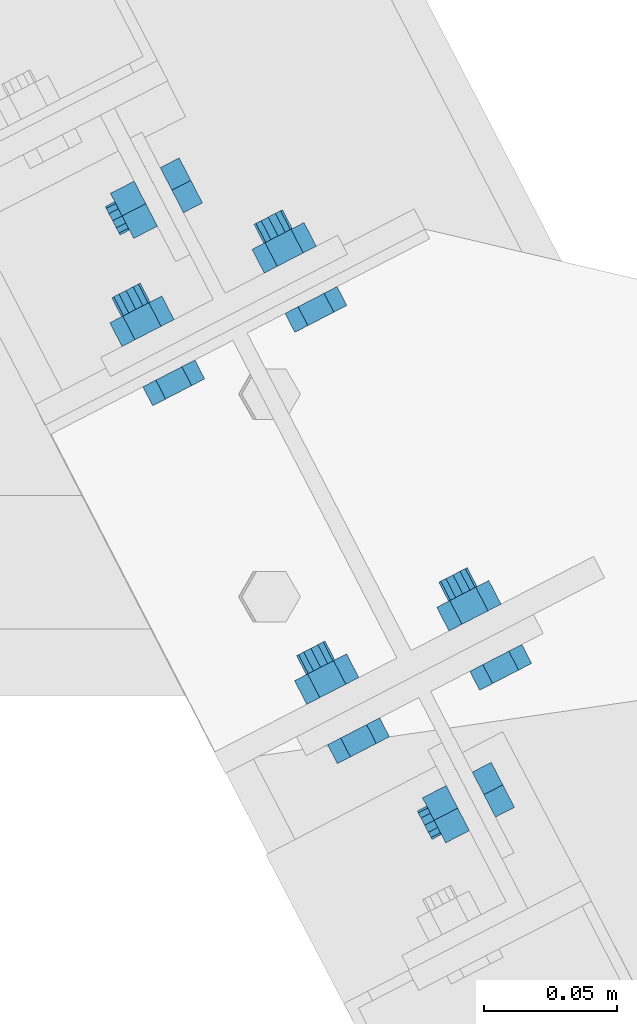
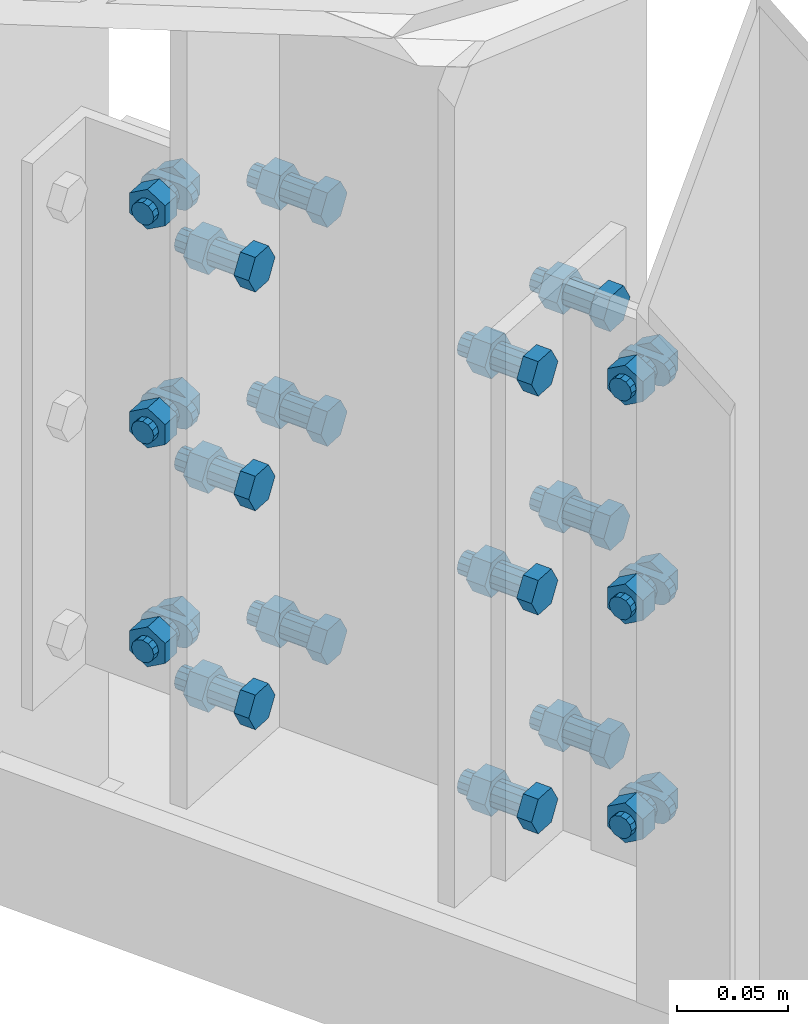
# One storey, part 16 of 3134: 4 mechanical fasteners, 3 elements without a shape of their own.
"""IFC2X3 building model written with IfcOpenShell, lengths in millimetres."""

from ifc_helpers import new_model, si_unit, frame, origin_with_axes, place, context, subcontext, project, spatial, faceted_brep, source, transform, mapped, material, type_object, element, aggregate, save


model = new_model("IFC2X3")

# Units and contexts
model_context = context("Model", 3, precision=1e-05, world=origin_with_axes())
body_context = subcontext(model_context, "Body", "Model", "MODEL_VIEW")
ifc_project = project(units=[si_unit("LENGTHUNIT", "METRE", prefix="MILLI"), si_unit("AREAUNIT", "SQUARE_METRE"), si_unit("VOLUMEUNIT", "CUBIC_METRE"), si_unit("MASSUNIT", "GRAM", prefix="KILO"), si_unit("TIMEUNIT", "SECOND"), si_unit("PLANEANGLEUNIT", "RADIAN"), si_unit("SOLIDANGLEUNIT", "STERADIAN"), si_unit("THERMODYNAMICTEMPERATUREUNIT", "DEGREE_CELSIUS"), si_unit("LUMINOUSINTENSITYUNIT", "LUMEN")], contexts=[model_context])

# Site, building, storey
site_placement = place(None, origin_with_axes())
site = spatial("IfcSite", under=ifc_project, at=site_placement, CompositionType="ELEMENT")
building_placement = place(site_placement, origin_with_axes())
building = spatial("IfcBuilding", under=site, at=building_placement, Name="Undefined", CompositionType="ELEMENT")
storey_placement = place(building_placement, origin_with_axes())
storey = spatial("IfcBuildingStorey", under=building, at=storey_placement, Name="Undefined", CompositionType="ELEMENT", Elevation=0.0)

# Assembly, mechanical fastener
assembly_1_placement = place(storey_placement, origin_with_axes())
assembly_1 = element("IfcElementAssembly", 1, at=assembly_1_placement, inside=storey, AssemblyPlace="NOTDEFINED", PredefinedType="RIGID_FRAME")
ifc_material = material(Name="8.8")
mechanical_fastener_type = type_object("IfcMechanicalFastenerType", Name="Bolt assembly")
shared_shape_1 = source(origin_with_axes(), body_context, "Body", "Brep", [
    faceted_brep([(10.9696551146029, -10.499999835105, 0.0), (5.48482755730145, -10.499999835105, 9.5), (-5.48482755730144, -10.499999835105, 9.5), (-10.9696551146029, -10.499999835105, 1.34339530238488e-15), (-5.48482755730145, -10.499999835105, -9.5), (5.48482755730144, -10.499999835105, -9.50000000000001), (5.48482755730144, -2.49999983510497, -9.50000000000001), (-5.48482755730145, -2.49999983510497, -9.5), (-10.9696551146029, -2.49999983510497, 1.34339530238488e-15), (-5.48482755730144, -2.49999983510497, 9.5), (5.48482755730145, -2.49999983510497, 9.5), (10.9696551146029, -2.49999983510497, 0.0), (6.0, -2.49999983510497, 0.0), (5.19615242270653, -2.49999983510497, 3.00000000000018), (2.99999999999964, -2.49999983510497, 5.19615242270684), (-6.21801588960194e-13, -2.49999983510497, 6.0), (-3.00000000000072, -2.49999983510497, 5.19615242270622), (-5.19615242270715, -2.49999983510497, 2.9999999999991), (-6.0, -2.49999983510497, -1.24360317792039e-12), (-5.19615242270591, -2.49999983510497, -3.00000000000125), (-2.99999999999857, -2.49999983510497, -5.19615242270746), (1.85874342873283e-12, -2.49999983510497, -6.0), (3.00000000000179, -2.49999983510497, -5.1961524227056), (5.19615242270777, -2.49999983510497, -2.99999999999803), (5.19615242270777, 22.5, -2.99999999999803), (3.00000000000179, 22.5, -5.1961524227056), (1.85874342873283e-12, 22.5, -6.0), (-2.99999999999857, 22.5, -5.19615242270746), (-5.19615242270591, 22.5, -3.00000000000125), (-6.0, 22.5, -1.24360317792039e-12), (-5.19615242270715, 22.5, 2.9999999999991), (-3.00000000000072, 22.5, 5.19615242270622), (-6.21801588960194e-13, 22.5, 6.0), (2.99999999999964, 22.5, 5.19615242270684), (5.19615242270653, 22.5, 3.00000000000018), (6.0, 22.5, 0.0), (10.9696551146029, 8.50160430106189, 0.0), (5.48482755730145, 8.50160430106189, 9.5), (-5.48482755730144, 8.50160430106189, 9.5), (-10.9696551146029, 8.50160430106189, 1.34339530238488e-15), (-5.48482755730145, 8.50160430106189, -9.5), (5.48482755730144, 8.50160430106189, -9.50000000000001), (5.48482755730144, 18.5016043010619, -9.50000000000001), (-5.48482755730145, 18.5016043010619, -9.5), (-10.9696551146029, 18.5016043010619, 1.34339530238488e-15), (-5.48482755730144, 18.5016043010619, 9.5), (5.48482755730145, 18.5016043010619, 9.5), (10.9696551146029, 18.5016043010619, 0.0)], [[[0, 1, 2, 3, 4, 5]], [[6, 7, 8, 9, 10, 11]], [[0, 11, 10, 1]], [[1, 10, 9, 2]], [[2, 9, 8, 3]], [[3, 8, 7, 4]], [[4, 7, 6, 5]], [[5, 6, 11, 0]], [[12, 13, 14, 15, 16, 17, 18, 19, 20, 21, 22, 23]], [[24, 25, 26, 27, 28, 29, 30, 31, 32, 33, 34, 35]], [[12, 35, 34, 13]], [[13, 34, 33, 14]], [[14, 33, 32, 15]], [[15, 32, 31, 16]], [[16, 31, 30, 17]], [[17, 30, 29, 18]], [[18, 29, 28, 19]], [[19, 28, 27, 20]], [[20, 27, 26, 21]], [[21, 26, 25, 22]], [[22, 25, 24, 23]], [[23, 24, 35, 12]], [[36, 37, 38, 39, 40, 41]], [[42, 43, 44, 45, 46, 47]], [[36, 47, 46, 37]], [[37, 46, 45, 38]], [[38, 45, 44, 39]], [[39, 44, 43, 40]], [[40, 43, 42, 41]], [[41, 42, 47, 36]]]),
    faceted_brep([(7.0, -2.39999983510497, 7.0), (6.46715672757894, -2.39999983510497, 9.6787840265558), (4.94974746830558, -2.39999983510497, 11.9497474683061), (-7.25435187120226e-13, -2.39999983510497, 14.0), (-3.50000000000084, -2.39999983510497, 13.0621778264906), (-6.06217782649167, -2.39999983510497, 10.499999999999), (-7.0, -2.39999983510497, 6.99999999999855), (-7.0, -2.39999983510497, -7.00000000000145), (-6.06217782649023, -2.39999983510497, -10.5000000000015), (-3.49999999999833, -2.39999983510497, -13.062177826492), (2.1685340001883e-12, -2.39999983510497, -14.0), (3.50000000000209, -2.39999983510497, -13.0621778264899), (6.0621778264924, -2.39999983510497, -10.4999999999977), (7.0, -2.39999983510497, -6.9999999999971), (7.0, 2.60000016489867, -6.9999999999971), (6.0621778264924, 2.60000016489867, -10.4999999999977), (3.50000000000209, 2.60000016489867, -13.0621778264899), (2.1685340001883e-12, 2.60000016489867, -14.0), (-3.49999999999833, 2.60000016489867, -13.062177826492), (-6.06217782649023, 2.60000016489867, -10.5000000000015), (-7.0, 2.60000016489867, -7.00000000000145), (-7.0, 2.60000016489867, 6.99999999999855), (-6.06217782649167, 2.60000016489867, 10.499999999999), (-3.50000000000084, 2.60000016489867, 13.0621778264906), (-7.25435187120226e-13, 2.60000016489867, 14.0), (2.67878402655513, 2.60000016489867, 13.4671567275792), (4.94974746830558, 2.60000016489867, 11.9497474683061), (6.46715672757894, 2.60000016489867, 9.6787840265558), (7.0, 2.60000016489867, 7.0), (2.67878402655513, -2.39999983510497, 13.4671567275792), (7.0, 2.40160430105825, 0.0), (6.06217782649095, 2.40160430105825, 3.50000000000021), (3.49999999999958, 2.40160430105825, 6.06217782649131), (-7.25435187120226e-13, 2.40160430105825, 7.0), (-3.50000000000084, 2.40160430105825, 6.06217782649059), (-6.06217782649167, 2.40160430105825, 3.49999999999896), (-7.0, 2.40160430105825, -1.45087037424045e-12), (-6.06217782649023, 2.40160430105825, -3.50000000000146), (-3.49999999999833, 2.40160430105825, -6.06217782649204), (2.1685340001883e-12, 2.40160430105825, -7.0), (3.50000000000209, 2.40160430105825, -6.06217782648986), (6.0621778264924, 2.40160430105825, -3.4999999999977), (6.0621778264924, 8.50160430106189, -3.4999999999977), (3.50000000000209, 8.50160430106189, -6.06217782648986), (2.1685340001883e-12, 8.50160430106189, -7.0), (-3.49999999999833, 8.50160430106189, -6.06217782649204), (-6.06217782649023, 8.50160430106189, -3.50000000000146), (-7.0, 8.50160430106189, -1.45087037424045e-12), (-6.06217782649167, 8.50160430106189, 3.49999999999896), (-3.50000000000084, 8.50160430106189, 6.06217782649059), (-7.25435187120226e-13, 8.50160430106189, 7.0), (3.49999999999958, 8.50160430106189, 6.06217782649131), (6.06217782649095, 8.50160430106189, 3.50000000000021), (7.0, 8.50160430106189, 0.0)], [[[0, 1, 2, 3, 4, 5, 6, 7, 8, 9, 10, 11, 12, 13]], [[14, 15, 16, 17, 18, 19, 20, 21, 22, 23, 24, 25, 26, 27, 28]], [[0, 28, 27, 1]], [[1, 27, 26, 2]], [[2, 26, 25, 29]], [[29, 25, 24, 3]], [[3, 24, 23, 4]], [[4, 23, 22, 5]], [[5, 22, 21, 6]], [[6, 21, 20, 7]], [[7, 20, 19, 8]], [[8, 19, 18, 9]], [[9, 18, 17, 10]], [[10, 17, 16, 11]], [[11, 16, 15, 12]], [[12, 15, 14, 13]], [[13, 14, 28, 0]], [[30, 31, 32, 33, 34, 35, 36, 37, 38, 39, 40, 41]], [[42, 43, 44, 45, 46, 47, 48, 49, 50, 51, 52, 53]], [[30, 53, 52, 31]], [[31, 52, 51, 32]], [[32, 51, 50, 33]], [[33, 50, 49, 34]], [[34, 49, 48, 35]], [[35, 48, 47, 36]], [[36, 47, 46, 37]], [[37, 46, 45, 38]], [[38, 45, 44, 39]], [[39, 44, 43, 40]], [[40, 43, 42, 41]], [[41, 42, 53, 30]]]),
])
mechanical_fastener_1_placement = place(assembly_1_placement, frame((7481.32925048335, 12946.7000869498, 3290.00065963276), z_axis=(-0.458684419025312, 0.88859923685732, 0.0), x_axis=(0.0, 0.0, -1.0)))
mechanical_fastener_1 = element("IfcMechanicalFastener", 2, at=mechanical_fastener_1_placement, type_object=mechanical_fastener_type, material=ifc_material, Name="Bolt assembly", NominalDiameter=12.0, NominalLength=25.0, context=body_context, shape_type="MappedRepresentation", body=[
    mapped(shared_shape_1, transform((0.0, 0.0, 0.0))),
    mapped(shared_shape_1, transform((120.0, 0.0, 0.0))),
    mapped(shared_shape_1, transform((240.0, 0.0, 0.0))),
])
aggregate(assembly_1, [mechanical_fastener_1])

# Assembly, mechanical fasteners
assembly_2_placement = place(storey_placement, origin_with_axes())
assembly_2 = element("IfcElementAssembly", 3, at=assembly_2_placement, inside=storey, Name="HEA160", AssemblyPlace="NOTDEFINED", PredefinedType="RIGID_FRAME")
shared_shape_2 = source(origin_with_axes(), body_context, "Body", "Brep", [
    faceted_brep([(10.9696551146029, -16.0, 0.0), (5.48482755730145, -16.0, 9.5), (-5.48482755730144, -16.0, 9.5), (-10.9696551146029, -16.0, 1.34339530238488e-15), (-5.48482755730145, -16.0, -9.5), (5.48482755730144, -16.0, -9.50000000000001), (5.48482755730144, -8.0, -9.50000000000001), (-5.48482755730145, -8.0, -9.5), (-10.9696551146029, -8.0, 1.34339530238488e-15), (-5.48482755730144, -8.0, 9.5), (5.48482755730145, -8.0, 9.5), (10.9696551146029, -8.0, 0.0), (6.0, -8.0, 0.0), (5.19615242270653, -8.0, 3.00000000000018), (2.99999999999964, -8.0, 5.19615242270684), (-6.21801588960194e-13, -8.0, 6.0), (-3.00000000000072, -8.0, 5.19615242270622), (-5.19615242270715, -8.0, 2.9999999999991), (-6.0, -8.0, -1.24360317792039e-12), (-5.19615242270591, -8.0, -3.00000000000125), (-2.99999999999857, -8.0, -5.19615242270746), (1.85874342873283e-12, -8.0, -6.0), (3.00000000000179, -8.0, -5.1961524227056), (5.19615242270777, -8.0, -2.99999999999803), (5.19615242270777, 27.0, -2.99999999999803), (3.00000000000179, 27.0, -5.1961524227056), (1.85874342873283e-12, 27.0, -6.0), (-2.99999999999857, 27.0, -5.19615242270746), (-5.19615242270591, 27.0, -3.00000000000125), (-6.0, 27.0, -1.24360317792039e-12), (-5.19615242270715, 27.0, 2.9999999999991), (-3.00000000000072, 27.0, 5.19615242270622), (-6.21801588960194e-13, 27.0, 6.0), (2.99999999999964, 27.0, 5.19615242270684), (5.19615242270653, 27.0, 3.00000000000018), (6.0, 27.0, 0.0), (10.9696551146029, 9.00000000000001, 0.0), (5.48482755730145, 9.00000000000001, 9.5), (-5.48482755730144, 9.00000000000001, 9.5), (-10.9696551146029, 9.00000000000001, 1.34339530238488e-15), (-5.48482755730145, 9.00000000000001, -9.5), (5.48482755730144, 9.00000000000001, -9.50000000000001), (5.48482755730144, 19.0, -9.50000000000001), (-5.48482755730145, 19.0, -9.5), (-10.9696551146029, 19.0, 1.34339530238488e-15), (-5.48482755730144, 19.0, 9.5), (5.48482755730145, 19.0, 9.5), (10.9696551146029, 19.0, 0.0)], [[[0, 1, 2, 3, 4, 5]], [[6, 7, 8, 9, 10, 11]], [[0, 11, 10, 1]], [[1, 10, 9, 2]], [[2, 9, 8, 3]], [[3, 8, 7, 4]], [[4, 7, 6, 5]], [[5, 6, 11, 0]], [[12, 13, 14, 15, 16, 17, 18, 19, 20, 21, 22, 23]], [[24, 25, 26, 27, 28, 29, 30, 31, 32, 33, 34, 35]], [[12, 35, 34, 13]], [[13, 34, 33, 14]], [[14, 33, 32, 15]], [[15, 32, 31, 16]], [[16, 31, 30, 17]], [[17, 30, 29, 18]], [[18, 29, 28, 19]], [[19, 28, 27, 20]], [[20, 27, 26, 21]], [[21, 26, 25, 22]], [[22, 25, 24, 23]], [[23, 24, 35, 12]], [[36, 37, 38, 39, 40, 41]], [[42, 43, 44, 45, 46, 47]], [[36, 47, 46, 37]], [[37, 46, 45, 38]], [[38, 45, 44, 39]], [[39, 44, 43, 40]], [[40, 43, 42, 41]], [[41, 42, 47, 36]]]),
    faceted_brep([(7.0, -7.9, 0.0), (6.06217782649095, -7.9, 3.50000000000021), (3.49999999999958, -7.9, 6.06217782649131), (-7.25435187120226e-13, -7.9, 7.0), (-3.50000000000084, -7.9, 6.06217782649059), (-6.06217782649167, -7.9, 3.49999999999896), (-7.0, -7.9, -1.45087037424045e-12), (-6.06217782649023, -7.9, -3.50000000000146), (-3.49999999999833, -7.9, -6.06217782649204), (2.1685340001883e-12, -7.9, -7.0), (3.50000000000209, -7.9, -6.06217782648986), (6.0621778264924, -7.9, -3.4999999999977), (6.0621778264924, 0.0999999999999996, -3.4999999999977), (3.50000000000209, 0.0999999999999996, -6.06217782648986), (2.1685340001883e-12, 0.0999999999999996, -7.0), (-3.49999999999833, 0.0999999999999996, -6.06217782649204), (-6.06217782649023, 0.0999999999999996, -3.50000000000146), (-7.0, 0.0999999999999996, -1.45087037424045e-12), (-6.06217782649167, 0.0999999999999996, 3.49999999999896), (-3.50000000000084, 0.0999999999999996, 6.06217782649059), (-7.25435187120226e-13, 0.0999999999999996, 7.0), (3.49999999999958, 0.0999999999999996, 6.06217782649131), (6.06217782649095, 0.0999999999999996, 3.50000000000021), (7.0, 0.0999999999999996, 0.0), (7.0, -0.1, 0.0), (6.06217782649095, -0.1, 3.50000000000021), (3.49999999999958, -0.1, 6.06217782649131), (-7.25435187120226e-13, -0.1, 7.0), (-3.50000000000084, -0.1, 6.06217782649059), (-6.06217782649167, -0.1, 3.49999999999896), (-7.0, -0.1, -1.45087037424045e-12), (-6.06217782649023, -0.1, -3.50000000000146), (-3.49999999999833, -0.1, -6.06217782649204), (2.1685340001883e-12, -0.1, -7.0), (3.50000000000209, -0.1, -6.06217782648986), (6.0621778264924, -0.1, -3.4999999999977), (6.0621778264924, 9.00000000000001, -3.4999999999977), (3.50000000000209, 9.00000000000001, -6.06217782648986), (2.1685340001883e-12, 9.00000000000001, -7.0), (-3.49999999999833, 9.00000000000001, -6.06217782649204), (-6.06217782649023, 9.00000000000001, -3.50000000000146), (-7.0, 9.00000000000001, -1.45087037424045e-12), (-6.06217782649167, 9.00000000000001, 3.49999999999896), (-3.50000000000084, 9.00000000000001, 6.06217782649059), (-7.25435187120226e-13, 9.00000000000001, 7.0), (3.49999999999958, 9.00000000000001, 6.06217782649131), (6.06217782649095, 9.00000000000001, 3.50000000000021), (7.0, 9.00000000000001, 0.0)], [[[0, 1, 2, 3, 4, 5, 6, 7, 8, 9, 10, 11]], [[12, 13, 14, 15, 16, 17, 18, 19, 20, 21, 22, 23]], [[0, 23, 22, 1]], [[1, 22, 21, 2]], [[2, 21, 20, 3]], [[3, 20, 19, 4]], [[4, 19, 18, 5]], [[5, 18, 17, 6]], [[6, 17, 16, 7]], [[7, 16, 15, 8]], [[8, 15, 14, 9]], [[9, 14, 13, 10]], [[10, 13, 12, 11]], [[11, 12, 23, 0]], [[24, 25, 26, 27, 28, 29, 30, 31, 32, 33, 34, 35]], [[36, 37, 38, 39, 40, 41, 42, 43, 44, 45, 46, 47]], [[24, 47, 46, 25]], [[25, 46, 45, 26]], [[26, 45, 44, 27]], [[27, 44, 43, 28]], [[28, 43, 42, 29]], [[29, 42, 41, 30]], [[30, 41, 40, 31]], [[31, 40, 39, 32]], [[32, 39, 38, 33]], [[33, 38, 37, 34]], [[34, 37, 36, 35]], [[35, 36, 47, 24]]]),
])
mechanical_fastener_2_placement = place(assembly_2_placement, frame((7431.04721108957, 12978.7059253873, 3170.0), z_axis=(0.0, 0.0, 1.0), x_axis=(0.888599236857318, 0.458684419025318, 0.0)))
mechanical_fastener_2 = element("IfcMechanicalFastener", 4, at=mechanical_fastener_2_placement, type_object=mechanical_fastener_type, material=ifc_material, Name="Bolt assembly", NominalDiameter=12.0, NominalLength=35.0, context=body_context, shape_type="MappedRepresentation", body=[
    mapped(shared_shape_2, transform((0.0, 0.0, -120.0))),
    mapped(shared_shape_2, transform((60.0000000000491, 0.0, -120.0))),
    mapped(shared_shape_2, transform((0.0, 0.0, 0.0))),
    mapped(shared_shape_2, transform((59.9999999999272, 0.0, 5.40239852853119e-10))),
    mapped(shared_shape_2, transform((0.0, 0.0, 120.0))),
    mapped(shared_shape_2, transform((60.0000000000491, 0.0, 120.0))),
])
shared_shape_3 = source(origin_with_axes(), body_context, "Body", "Brep", [
    faceted_brep([(10.9696551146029, -17.0000000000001, 0.0), (5.48482755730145, -17.0000000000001, 9.5), (-5.48482755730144, -17.0000000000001, 9.5), (-10.9696551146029, -17.0000000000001, 1.34339530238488e-15), (-5.48482755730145, -17.0000000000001, -9.5), (5.48482755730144, -17.0000000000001, -9.50000000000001), (5.48482755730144, -9.00000000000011, -9.50000000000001), (-5.48482755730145, -9.00000000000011, -9.5), (-10.9696551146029, -9.00000000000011, 1.34339530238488e-15), (-5.48482755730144, -9.00000000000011, 9.5), (5.48482755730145, -9.00000000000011, 9.5), (10.9696551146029, -9.00000000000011, 0.0), (6.0, -9.00000000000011, 0.0), (5.19615242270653, -9.00000000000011, 3.00000000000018), (2.99999999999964, -9.00000000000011, 5.19615242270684), (-6.21801588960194e-13, -9.00000000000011, 6.0), (-3.00000000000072, -9.00000000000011, 5.19615242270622), (-5.19615242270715, -9.00000000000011, 2.9999999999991), (-6.0, -9.00000000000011, -1.24360317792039e-12), (-5.19615242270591, -9.00000000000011, -3.00000000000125), (-2.99999999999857, -9.00000000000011, -5.19615242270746), (1.85874342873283e-12, -9.00000000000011, -6.0), (3.00000000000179, -9.00000000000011, -5.1961524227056), (5.19615242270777, -9.00000000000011, -2.99999999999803), (5.19615242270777, 26.0, -2.99999999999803), (3.00000000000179, 26.0, -5.1961524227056), (1.85874342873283e-12, 26.0, -6.0), (-2.99999999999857, 26.0, -5.19615242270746), (-5.19615242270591, 26.0, -3.00000000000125), (-6.0, 26.0, -1.24360317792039e-12), (-5.19615242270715, 26.0, 2.9999999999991), (-3.00000000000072, 26.0, 5.19615242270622), (-6.21801588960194e-13, 26.0, 6.0), (2.99999999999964, 26.0, 5.19615242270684), (5.19615242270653, 26.0, 3.00000000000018), (6.0, 26.0, 0.0), (10.9696551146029, 8.0, 0.0), (5.48482755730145, 8.0, 9.5), (-5.48482755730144, 8.0, 9.5), (-10.9696551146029, 8.0, 1.34339530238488e-15), (-5.48482755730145, 8.0, -9.5), (5.48482755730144, 8.0, -9.50000000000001), (5.48482755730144, 18.0, -9.50000000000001), (-5.48482755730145, 18.0, -9.5), (-10.9696551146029, 18.0, 1.34339530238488e-15), (-5.48482755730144, 18.0, 9.5), (5.48482755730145, 18.0, 9.5), (10.9696551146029, 18.0, 0.0)], [[[0, 1, 2, 3, 4, 5]], [[6, 7, 8, 9, 10, 11]], [[0, 11, 10, 1]], [[1, 10, 9, 2]], [[2, 9, 8, 3]], [[3, 8, 7, 4]], [[4, 7, 6, 5]], [[5, 6, 11, 0]], [[12, 13, 14, 15, 16, 17, 18, 19, 20, 21, 22, 23]], [[24, 25, 26, 27, 28, 29, 30, 31, 32, 33, 34, 35]], [[12, 35, 34, 13]], [[13, 34, 33, 14]], [[14, 33, 32, 15]], [[15, 32, 31, 16]], [[16, 31, 30, 17]], [[17, 30, 29, 18]], [[18, 29, 28, 19]], [[19, 28, 27, 20]], [[20, 27, 26, 21]], [[21, 26, 25, 22]], [[22, 25, 24, 23]], [[23, 24, 35, 12]], [[36, 37, 38, 39, 40, 41]], [[42, 43, 44, 45, 46, 47]], [[36, 47, 46, 37]], [[37, 46, 45, 38]], [[38, 45, 44, 39]], [[39, 44, 43, 40]], [[40, 43, 42, 41]], [[41, 42, 47, 36]]]),
    faceted_brep([(7.0, -0.1, 0.0), (6.06217782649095, -0.1, 3.50000000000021), (3.49999999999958, -0.1, 6.06217782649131), (-7.25435187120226e-13, -0.1, 7.0), (-3.50000000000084, -0.1, 6.06217782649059), (-6.06217782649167, -0.1, 3.49999999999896), (-7.0, -0.1, -1.45087037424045e-12), (-6.06217782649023, -0.1, -3.50000000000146), (-3.49999999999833, -0.1, -6.06217782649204), (2.1685340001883e-12, -0.1, -7.0), (3.50000000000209, -0.1, -6.06217782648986), (6.0621778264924, -0.1, -3.4999999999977), (6.0621778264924, 8.0000000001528, -3.4999999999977), (3.50000000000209, 8.0000000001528, -6.06217782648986), (2.1685340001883e-12, 8.0000000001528, -7.0), (-3.49999999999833, 8.0000000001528, -6.06217782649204), (-6.06217782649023, 8.0000000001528, -3.50000000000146), (-7.0, 8.0000000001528, -1.45087037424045e-12), (-6.06217782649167, 8.0000000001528, 3.49999999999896), (-3.50000000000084, 8.0000000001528, 6.06217782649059), (-7.25435187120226e-13, 8.0000000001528, 7.0), (3.49999999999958, 8.0000000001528, 6.06217782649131), (6.06217782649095, 8.0000000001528, 3.50000000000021), (7.0, 8.0000000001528, 0.0), (7.0, -8.90000000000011, 0.0), (6.06217782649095, -8.90000000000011, 3.50000000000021), (3.49999999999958, -8.90000000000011, 6.06217782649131), (-7.25435187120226e-13, -8.90000000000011, 7.0), (-3.50000000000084, -8.90000000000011, 6.06217782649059), (-6.06217782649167, -8.90000000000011, 3.49999999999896), (-7.0, -8.90000000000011, -1.45087037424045e-12), (-6.06217782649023, -8.90000000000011, -3.50000000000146), (-3.49999999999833, -8.90000000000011, -6.06217782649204), (2.1685340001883e-12, -8.90000000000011, -7.0), (3.50000000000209, -8.90000000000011, -6.06217782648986), (6.0621778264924, -8.90000000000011, -3.4999999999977), (6.0621778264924, 0.0999999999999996, -3.4999999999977), (3.50000000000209, 0.0999999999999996, -6.06217782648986), (2.1685340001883e-12, 0.0999999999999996, -7.0), (-3.49999999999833, 0.0999999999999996, -6.06217782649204), (-6.06217782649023, 0.0999999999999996, -3.50000000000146), (-7.0, 0.0999999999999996, -1.45087037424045e-12), (-6.06217782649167, 0.0999999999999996, 3.49999999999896), (-3.50000000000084, 0.0999999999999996, 6.06217782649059), (-7.25435187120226e-13, 0.0999999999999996, 7.0), (3.49999999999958, 0.0999999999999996, 6.06217782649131), (6.06217782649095, 0.0999999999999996, 3.50000000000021), (7.0, 0.0999999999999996, 0.0)], [[[0, 1, 2, 3, 4, 5, 6, 7, 8, 9, 10, 11]], [[12, 13, 14, 15, 16, 17, 18, 19, 20, 21, 22, 23]], [[0, 23, 22, 1]], [[1, 22, 21, 2]], [[2, 21, 20, 3]], [[3, 20, 19, 4]], [[4, 19, 18, 5]], [[5, 18, 17, 6]], [[6, 17, 16, 7]], [[7, 16, 15, 8]], [[8, 15, 14, 9]], [[9, 14, 13, 10]], [[10, 13, 12, 11]], [[11, 12, 23, 0]], [[24, 25, 26, 27, 28, 29, 30, 31, 32, 33, 34, 35]], [[36, 37, 38, 39, 40, 41, 42, 43, 44, 45, 46, 47]], [[24, 47, 46, 25]], [[25, 46, 45, 26]], [[26, 45, 44, 27]], [[27, 44, 43, 28]], [[28, 43, 42, 29]], [[29, 42, 41, 30]], [[30, 41, 40, 31]], [[31, 40, 39, 32]], [[32, 39, 38, 33]], [[33, 38, 37, 34]], [[34, 37, 36, 35]], [[35, 36, 47, 24]]]),
])
mechanical_fastener_3_placement = place(assembly_2_placement, frame((7361.32717433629, 13113.7730036, 3170.0), z_axis=(0.0, 0.0, 1.0), x_axis=(0.888599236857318, 0.458684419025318, 0.0)))
mechanical_fastener_3 = element("IfcMechanicalFastener", 5, at=mechanical_fastener_3_placement, type_object=mechanical_fastener_type, material=ifc_material, Name="Bolt assembly", NominalDiameter=12.0, NominalLength=35.0, context=body_context, shape_type="MappedRepresentation", body=[
    mapped(shared_shape_3, transform((0.0, 0.0, -120.0))),
    mapped(shared_shape_3, transform((60.0000000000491, 0.0, -120.0))),
    mapped(shared_shape_3, transform((0.0, 0.0, 0.0))),
    mapped(shared_shape_3, transform((59.9999999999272, 0.0, 5.40239852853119e-10))),
    mapped(shared_shape_3, transform((0.0, 0.0, 120.0))),
    mapped(shared_shape_3, transform((60.0000000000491, 0.0, 120.0))),
])
aggregate(assembly_2, [mechanical_fastener_2, mechanical_fastener_3])

# Assembly, mechanical fastener
assembly_3_placement = place(storey_placement, origin_with_axes())
assembly_3 = element("IfcElementAssembly", 6, at=assembly_3_placement, inside=storey, AssemblyPlace="NOTDEFINED", PredefinedType="RIGID_FRAME")
shared_shape_4 = source(origin_with_axes(), body_context, "Body", "Brep", [
    faceted_brep([(10.9696551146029, -10.499999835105, 0.0), (5.48482755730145, -10.499999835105, 9.5), (-5.48482755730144, -10.499999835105, 9.5), (-10.9696551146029, -10.499999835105, 1.34339530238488e-15), (-5.48482755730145, -10.499999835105, -9.5), (5.48482755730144, -10.499999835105, -9.50000000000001), (5.48482755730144, -2.49999983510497, -9.50000000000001), (-5.48482755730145, -2.49999983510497, -9.5), (-10.9696551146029, -2.49999983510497, 1.34339530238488e-15), (-5.48482755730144, -2.49999983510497, 9.5), (5.48482755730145, -2.49999983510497, 9.5), (10.9696551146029, -2.49999983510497, 0.0), (6.0, -2.49999983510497, 0.0), (5.19615242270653, -2.49999983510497, 3.00000000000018), (2.99999999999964, -2.49999983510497, 5.19615242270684), (-6.21801588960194e-13, -2.49999983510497, 6.0), (-3.00000000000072, -2.49999983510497, 5.19615242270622), (-5.19615242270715, -2.49999983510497, 2.9999999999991), (-6.0, -2.49999983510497, -1.24360317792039e-12), (-5.19615242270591, -2.49999983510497, -3.00000000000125), (-2.99999999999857, -2.49999983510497, -5.19615242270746), (1.85874342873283e-12, -2.49999983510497, -6.0), (3.00000000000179, -2.49999983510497, -5.1961524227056), (5.19615242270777, -2.49999983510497, -2.99999999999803), (5.19615242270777, 22.5, -2.99999999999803), (3.00000000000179, 22.5, -5.1961524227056), (1.85874342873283e-12, 22.5, -6.0), (-2.99999999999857, 22.5, -5.19615242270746), (-5.19615242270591, 22.5, -3.00000000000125), (-6.0, 22.5, -1.24360317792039e-12), (-5.19615242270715, 22.5, 2.9999999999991), (-3.00000000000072, 22.5, 5.19615242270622), (-6.21801588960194e-13, 22.5, 6.0), (2.99999999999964, 22.5, 5.19615242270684), (5.19615242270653, 22.5, 3.00000000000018), (6.0, 22.5, 0.0), (10.9696551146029, 8.50153105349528, 0.0), (5.48482755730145, 8.50153105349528, 9.5), (-5.48482755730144, 8.50153105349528, 9.5), (-10.9696551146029, 8.50153105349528, 1.34339530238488e-15), (-5.48482755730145, 8.50153105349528, -9.5), (5.48482755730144, 8.50153105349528, -9.50000000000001), (5.48482755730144, 18.5015310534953, -9.50000000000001), (-5.48482755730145, 18.5015310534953, -9.5), (-10.9696551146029, 18.5015310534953, 1.34339530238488e-15), (-5.48482755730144, 18.5015310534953, 9.5), (5.48482755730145, 18.5015310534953, 9.5), (10.9696551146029, 18.5015310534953, 0.0)], [[[0, 1, 2, 3, 4, 5]], [[6, 7, 8, 9, 10, 11]], [[0, 11, 10, 1]], [[1, 10, 9, 2]], [[2, 9, 8, 3]], [[3, 8, 7, 4]], [[4, 7, 6, 5]], [[5, 6, 11, 0]], [[12, 13, 14, 15, 16, 17, 18, 19, 20, 21, 22, 23]], [[24, 25, 26, 27, 28, 29, 30, 31, 32, 33, 34, 35]], [[12, 35, 34, 13]], [[13, 34, 33, 14]], [[14, 33, 32, 15]], [[15, 32, 31, 16]], [[16, 31, 30, 17]], [[17, 30, 29, 18]], [[18, 29, 28, 19]], [[19, 28, 27, 20]], [[20, 27, 26, 21]], [[21, 26, 25, 22]], [[22, 25, 24, 23]], [[23, 24, 35, 12]], [[36, 37, 38, 39, 40, 41]], [[42, 43, 44, 45, 46, 47]], [[36, 47, 46, 37]], [[37, 46, 45, 38]], [[38, 45, 44, 39]], [[39, 44, 43, 40]], [[40, 43, 42, 41]], [[41, 42, 47, 36]]]),
    faceted_brep([(7.0, -2.39999983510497, 7.0), (6.46715672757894, -2.39999983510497, 9.6787840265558), (4.94974746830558, -2.39999983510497, 11.9497474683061), (-7.25435187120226e-13, -2.39999983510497, 14.0), (-3.50000000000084, -2.39999983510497, 13.0621778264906), (-6.06217782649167, -2.39999983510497, 10.499999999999), (-7.0, -2.39999983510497, 6.99999999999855), (-7.0, -2.39999983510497, -7.00000000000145), (-6.06217782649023, -2.39999983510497, -10.5000000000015), (-3.49999999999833, -2.39999983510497, -13.062177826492), (2.1685340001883e-12, -2.39999983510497, -14.0), (3.50000000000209, -2.39999983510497, -13.0621778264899), (6.0621778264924, -2.39999983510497, -10.4999999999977), (7.0, -2.39999983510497, -6.9999999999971), (7.0, 2.60000016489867, -6.9999999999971), (6.0621778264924, 2.60000016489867, -10.4999999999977), (3.50000000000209, 2.60000016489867, -13.0621778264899), (2.1685340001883e-12, 2.60000016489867, -14.0), (-3.49999999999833, 2.60000016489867, -13.062177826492), (-6.06217782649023, 2.60000016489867, -10.5000000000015), (-7.0, 2.60000016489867, -7.00000000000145), (-7.0, 2.60000016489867, 6.99999999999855), (-6.06217782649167, 2.60000016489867, 10.499999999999), (-3.50000000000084, 2.60000016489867, 13.0621778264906), (-7.25435187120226e-13, 2.60000016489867, 14.0), (2.67878402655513, 2.60000016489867, 13.4671567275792), (4.94974746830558, 2.60000016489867, 11.9497474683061), (6.46715672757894, 2.60000016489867, 9.6787840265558), (7.0, 2.60000016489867, 7.0), (2.67878402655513, -2.39999983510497, 13.4671567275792), (7.0, 2.4015310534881, 0.0), (6.06217782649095, 2.4015310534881, 3.50000000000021), (3.49999999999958, 2.4015310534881, 6.06217782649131), (-7.25435187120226e-13, 2.4015310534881, 7.0), (-3.50000000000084, 2.4015310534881, 6.06217782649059), (-6.06217782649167, 2.4015310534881, 3.49999999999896), (-7.0, 2.4015310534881, -1.45087037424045e-12), (-6.06217782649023, 2.4015310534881, -3.50000000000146), (-3.49999999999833, 2.4015310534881, -6.06217782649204), (2.1685340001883e-12, 2.4015310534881, -7.0), (3.50000000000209, 2.4015310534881, -6.06217782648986), (6.0621778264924, 2.4015310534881, -3.4999999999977), (6.0621778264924, 8.50153105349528, -3.4999999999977), (3.50000000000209, 8.50153105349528, -6.06217782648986), (2.1685340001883e-12, 8.50153105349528, -7.0), (-3.49999999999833, 8.50153105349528, -6.06217782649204), (-6.06217782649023, 8.50153105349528, -3.50000000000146), (-7.0, 8.50153105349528, -1.45087037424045e-12), (-6.06217782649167, 8.50153105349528, 3.49999999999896), (-3.50000000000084, 8.50153105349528, 6.06217782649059), (-7.25435187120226e-13, 8.50153105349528, 7.0), (3.49999999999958, 8.50153105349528, 6.06217782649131), (6.06217782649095, 8.50153105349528, 3.50000000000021), (7.0, 8.50153105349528, 0.0)], [[[0, 1, 2, 3, 4, 5, 6, 7, 8, 9, 10, 11, 12, 13]], [[14, 15, 16, 17, 18, 19, 20, 21, 22, 23, 24, 25, 26, 27, 28]], [[0, 28, 27, 1]], [[1, 27, 26, 2]], [[2, 26, 25, 29]], [[29, 25, 24, 3]], [[3, 24, 23, 4]], [[4, 23, 22, 5]], [[5, 22, 21, 6]], [[6, 21, 20, 7]], [[7, 20, 19, 8]], [[8, 19, 18, 9]], [[9, 18, 17, 10]], [[10, 17, 16, 11]], [[11, 16, 15, 12]], [[12, 15, 14, 13]], [[13, 14, 28, 0]], [[30, 31, 32, 33, 34, 35, 36, 37, 38, 39, 40, 41]], [[42, 43, 44, 45, 46, 47, 48, 49, 50, 51, 52, 53]], [[30, 53, 52, 31]], [[31, 52, 51, 32]], [[32, 51, 50, 33]], [[33, 50, 49, 34]], [[34, 49, 48, 35]], [[35, 48, 47, 36]], [[36, 47, 46, 37]], [[37, 46, 45, 38]], [[38, 45, 44, 39]], [[39, 44, 43, 40]], [[40, 43, 42, 41]], [[41, 42, 53, 30]]]),
])
mechanical_fastener_4_placement = place(assembly_3_placement, frame((7364.36108785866, 13173.2999096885, 3290.00065963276), z_axis=(-0.458684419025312, 0.88859923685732, 0.0), x_axis=(0.0, 0.0, -1.0)))
mechanical_fastener_4 = element("IfcMechanicalFastener", 7, at=mechanical_fastener_4_placement, type_object=mechanical_fastener_type, material=ifc_material, Name="Bolt assembly", NominalDiameter=12.0, NominalLength=25.0, context=body_context, shape_type="MappedRepresentation", body=[
    mapped(shared_shape_4, transform((0.0, 0.0, 0.0))),
    mapped(shared_shape_4, transform((120.0, 0.0, 0.0))),
    mapped(shared_shape_4, transform((240.0, 0.0, 0.0))),
])
aggregate(assembly_3, [mechanical_fastener_4])

save(model, "model.ifc")
